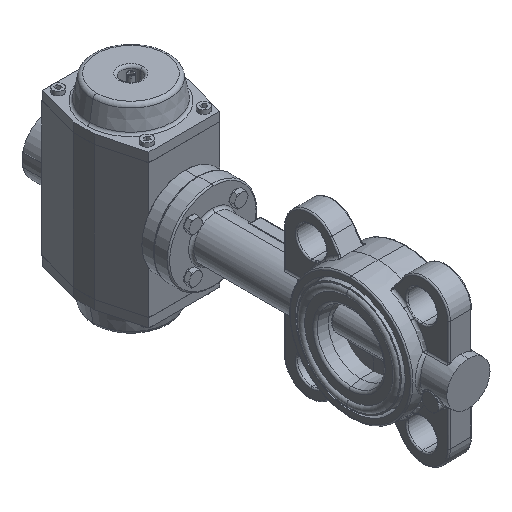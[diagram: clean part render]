
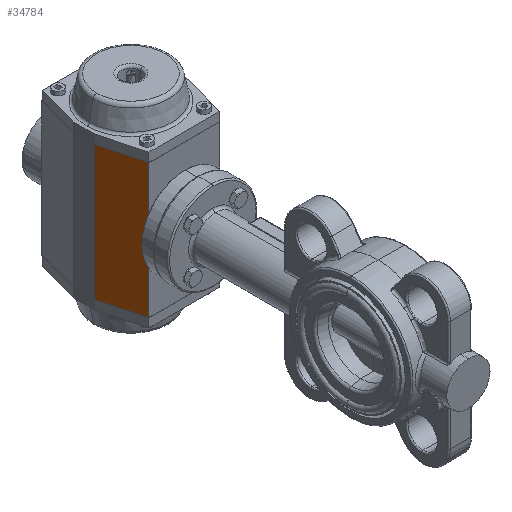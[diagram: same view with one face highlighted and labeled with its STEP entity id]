
A CAD part, isometric view. The second image highlights one B-rep face of the part: STEP entity #34784.
In plain terms, the highlighted planar face has unit normal (-0.966, -0.26, 0).
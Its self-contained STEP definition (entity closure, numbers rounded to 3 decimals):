
#1893 = VECTOR ( 'NONE', #4831, 1000. ) ;
#1958 = EDGE_LOOP ( 'NONE', ( #19615, #19794, #20245, #16997 ) ) ;
#3208 = VERTEX_POINT ( 'NONE', #6941 ) ;
#4791 = EDGE_CURVE ( 'NONE', #16898, #28009, #22515, .T. ) ;
#4831 = DIRECTION ( 'NONE',  ( -0.259, 0.966, 0. ) ) ;
#6151 = PLANE ( 'NONE',  #13752 ) ;
#6667 = VECTOR ( 'NONE', #37723, 1000. ) ;
#6941 = CARTESIAN_POINT ( 'NONE',  ( -36.5, -8., -52. ) ) ;
#7623 = LINE ( 'NONE', #19079, #6667 ) ;
#9065 = DIRECTION ( 'NONE',  ( 0., 0., 1. ) ) ;
#9186 = CARTESIAN_POINT ( 'NONE',  ( -27.5, -41.5, -52. ) ) ;
#10108 = DIRECTION ( 'NONE',  ( -0.259, 0.966, 0. ) ) ;
#10183 = LINE ( 'NONE', #32959, #1893 ) ;
#12349 = DIRECTION ( 'NONE',  ( -0.259, 0.966, 0. ) ) ;
#13752 = AXIS2_PLACEMENT_3D ( 'NONE', #27841, #30988, #12349 ) ;
#14697 = CARTESIAN_POINT ( 'NONE',  ( -27.5, -41.5, 52. ) ) ;
#16394 = VERTEX_POINT ( 'NONE', #9186 ) ;
#16898 = VERTEX_POINT ( 'NONE', #14697 ) ;
#16997 = ORIENTED_EDGE ( 'NONE', *, *, #19130, .F. ) ;
#17822 = VECTOR ( 'NONE', #9065, 1000. ) ;
#19079 = CARTESIAN_POINT ( 'NONE',  ( -36.5, -8., -52. ) ) ;
#19130 = EDGE_CURVE ( 'NONE', #16394, #3208, #10183, .T. ) ;
#19615 = ORIENTED_EDGE ( 'NONE', *, *, #21455, .T. ) ;
#19794 = ORIENTED_EDGE ( 'NONE', *, *, #4791, .T. ) ;
#20245 = ORIENTED_EDGE ( 'NONE', *, *, #27976, .F. ) ;
#21455 = EDGE_CURVE ( 'NONE', #16394, #16898, #26106, .T. ) ;
#22234 = CARTESIAN_POINT ( 'NONE',  ( -36.5, -8., 52. ) ) ;
#22515 = LINE ( 'NONE', #28732, #29824 ) ;
#26106 = LINE ( 'NONE', #27643, #17822 ) ;
#27643 = CARTESIAN_POINT ( 'NONE',  ( -27.5, -41.5, -52. ) ) ;
#27841 = CARTESIAN_POINT ( 'NONE',  ( -27.5, -41.5, -52. ) ) ;
#27976 = EDGE_CURVE ( 'NONE', #3208, #28009, #7623, .T. ) ;
#28009 = VERTEX_POINT ( 'NONE', #22234 ) ;
#28732 = CARTESIAN_POINT ( 'NONE',  ( -27.5, -41.5, 52. ) ) ;
#29824 = VECTOR ( 'NONE', #10108, 1000. ) ;
#30988 = DIRECTION ( 'NONE',  ( 0.966, 0.259, 0. ) ) ;
#32959 = CARTESIAN_POINT ( 'NONE',  ( -27.5, -41.5, -52. ) ) ;
#34784 = ADVANCED_FACE ( 'NONE', ( #36749 ), #6151, .F. ) ;
#36749 = FACE_OUTER_BOUND ( 'NONE', #1958, .T. ) ;
#37723 = DIRECTION ( 'NONE',  ( 0., 0., 1. ) ) ;
